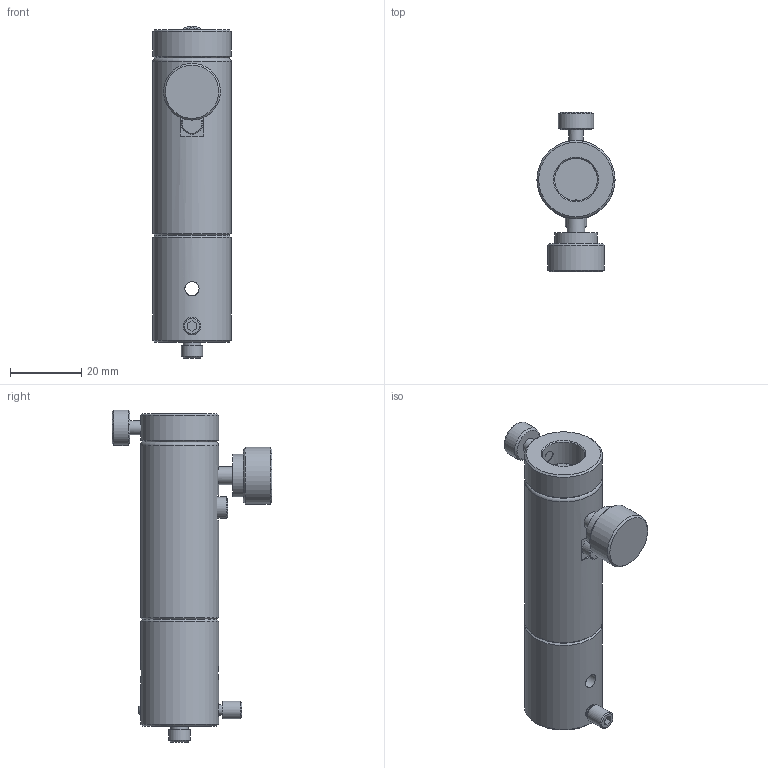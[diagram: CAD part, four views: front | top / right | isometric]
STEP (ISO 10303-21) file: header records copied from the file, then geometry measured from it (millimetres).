
FILE_DESCRIPTION(/* description */ (''),/* implementation_level */ '2;1');
FILE_NAME(/* name */ 'Y:\2_OpticalHard\03_Bases\BRS\BRS-12-□□-M6\BRS-12-80-M6\WEBデータ\BRS-12-80-M6.stp',/* time_stamp */ '2022-09-14T14:21:20+09:00',/* author */ ('e.nonaka'),/* organization */ (''),/* preprocessor_version */ 'ST-DEVELOPER v18.1',/* originating_system */ 'Autodesk Inventor 2021',/* authorisation */ '');
FILE_SCHEMA (('AUTOMOTIVE_DESIGN { 1 0 10303 214 3 1 1 }'));
Length unit declared in the file: millimetre
Products named in the file (1): BRS1280M6-M02-22001-TS01
Bounding box: 22 x 45 x 93.5 mm (x, y, z)
Volume: 25635.5 mm3; surface area: 11888.5 mm2
Topology: 1 solids, 1 shells, 83 faces, 170 edges, 108 vertices
Faces by surface type: plane 32, cylinder 31, cone 18, sphere 1, torus 1
Full cylindrical faces by diameter (mm): 3 x1, 4 x3, 4.134 x1, 5 x3, 6 x2, 10 x1, 12 x2, 14 x1, 16 x1, 17 x1, 22 x3
Entity records: 2675 total; most frequent: CARTESIAN_POINT 756, DIRECTION 390, ORIENTED_EDGE 340, EDGE_CURVE 170, AXIS2_PLACEMENT_3D 164, VERTEX_POINT 108, EDGE_LOOP 106, STYLED_ITEM 84
